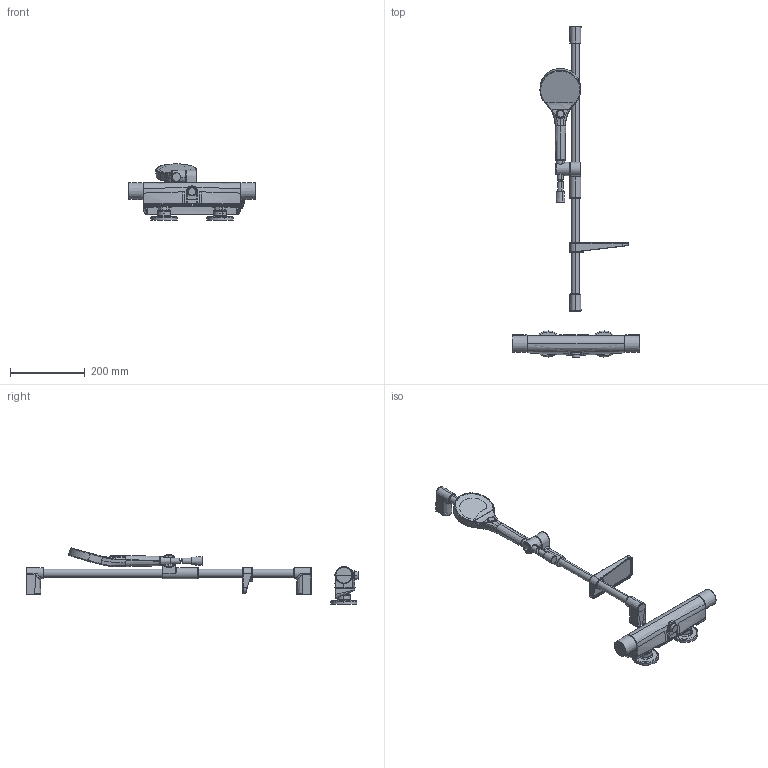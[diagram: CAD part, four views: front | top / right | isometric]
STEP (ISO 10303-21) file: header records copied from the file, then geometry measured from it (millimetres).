
FILE_DESCRIPTION (( 'STEP AP203' ), '1' );
FILE_NAME ('7169N-33(2025).STEP', '2025-08-13T06:52:29', ( '' ), ( '' ), 'SwSTEP 2.0', 'SolidWorks 2024', '' );
FILE_SCHEMA (( 'CONFIG_CONTROL_DESIGN' ));
Length unit declared in the file: millimetre
Products named in the file (1): 7169N-33(2025)
Bounding box: 342.5 x 890.21 x 150.74 mm (x, y, z)
Volume: 1911208.9 mm3; surface area: 349100.7 mm2
Topology: 20 solids, 20 shells, 956 faces, 2282 edges, 1350 vertices
Faces by surface type: bspline 584, cylinder 126, plane 112, cone 92, torus 30, sphere 12
Entity records: 69434 total; most frequent: CARTESIAN_POINT 51929, ORIENTED_EDGE 4488, DIRECTION 2355, EDGE_CURVE 2244, VERTEX_POINT 1351, B_SPLINE_CURVE_WITH_KNOTS 1168, AXIS2_PLACEMENT_3D 1016, EDGE_LOOP 983
